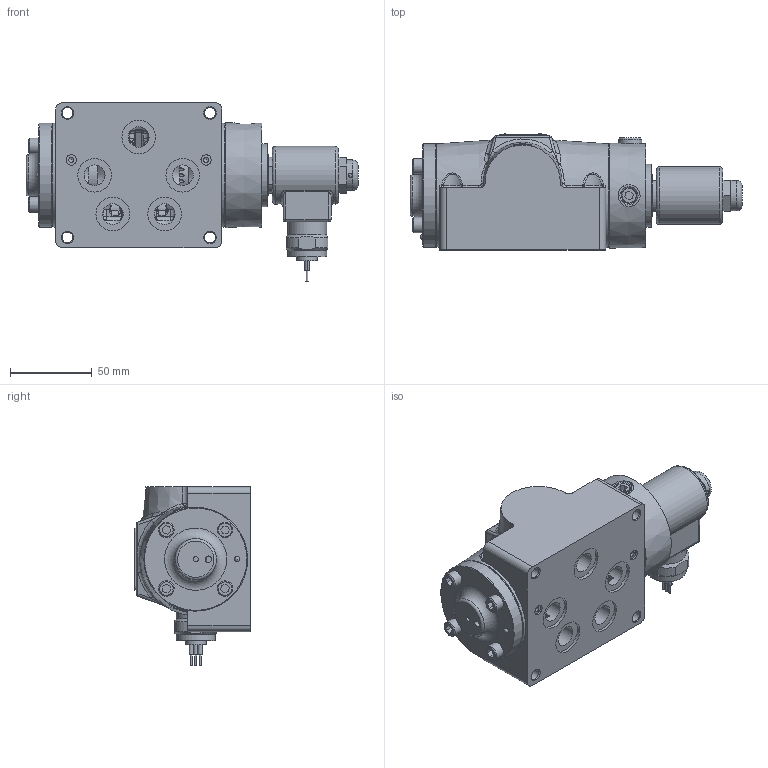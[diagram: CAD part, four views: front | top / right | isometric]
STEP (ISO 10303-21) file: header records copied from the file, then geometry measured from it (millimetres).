
FILE_DESCRIPTION(/* description */ (''),/* implementation_level */ '2;1');
FILE_NAME(/* name */ 'D:\Website New\Valves\Classic\SO\stp\SO4PMOPL.stp',/* time_stamp */ '2020-01-21T16:00:01-05:00',/* author */ ('RMcKenna'),/* organization */ (''),/* preprocessor_version */ 'ST-DEVELOPER v17',/* originating_system */ 'Autodesk Inventor 2018',/* authorisation */ '');
FILE_SCHEMA (('AUTOMOTIVE_DESIGN { 1 0 10303 214 3 1 1 }'));
Products named in the file (1): Part31
Bounding box: 203.3 x 71.21 x 109.45 mm (x, y, z)
Volume: 596434.5 mm3; surface area: 137025.4 mm2
Topology: 2 solids, 26 shells, 1738 faces, 4196 edges, 2638 vertices
Faces by surface type: plane 589, cylinder 349, cone 328, bspline 321, torus 128, sphere 23
Full cylindrical faces by diameter (mm): 1.041 x1, 1.346 x3, 2.07 x2, 2.261 x2, 2.381 x3, 2.718 x1, 2.769 x1, 2.778 x2, 3.048 x3, 3.175 x7, 3.302 x2, 3.962 x1, 3.969 x1, 4.978 x8, 5.639 x1, 6.35 x10, 6.629 x5, 7.137 x4, 7.144 x8, 9.462 x2, 9.474 x2, 9.525 x11, 11.328 x2, 11.43 x1, 11.836 x1, 12.598 x1, 12.7 x7, 12.827 x2, 13.106 x1, 13.462 x1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
Entity records: 70156 total; most frequent: CARTESIAN_POINT 30281, ORIENTED_EDGE 8318, DIRECTION 7157, EDGE_CURVE 4159, AXIS2_PLACEMENT_3D 2773, VERTEX_POINT 2640, EDGE_LOOP 1963, FACE_OUTER_BOUND 1738
